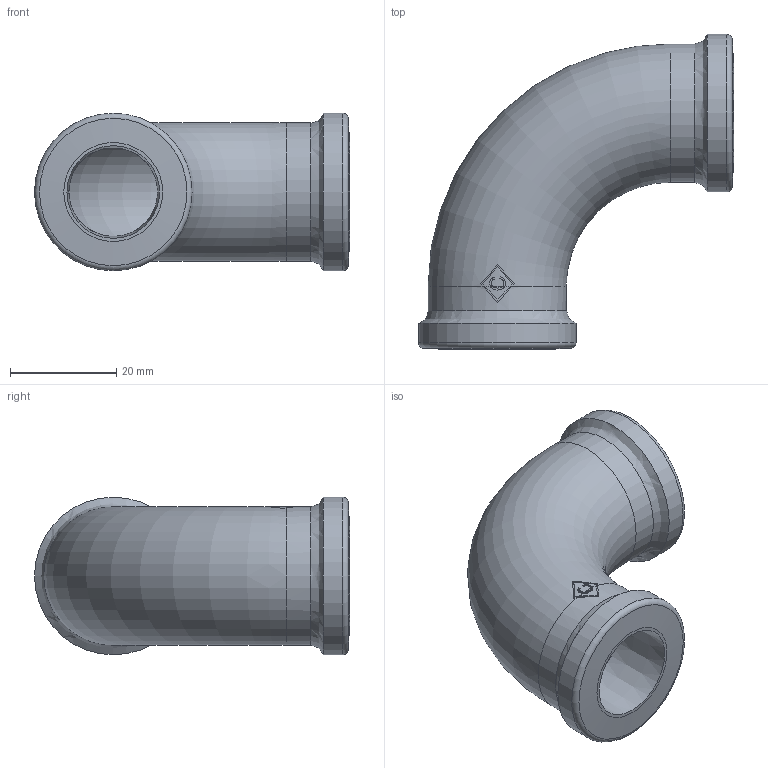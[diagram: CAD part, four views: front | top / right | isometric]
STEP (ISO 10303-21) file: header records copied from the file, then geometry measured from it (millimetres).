
FILE_DESCRIPTION((''),'2;1');
FILE_NAME('P:\Fastrack\53909_CRANE\Crane\Fig.193 Bend\New 0.50 inch\193-0.50.stp','2009-09-17T09:31:02',('btaylor'),(''),'Autodesk Inventor 2008','Autodesk Inventor 2008','');
FILE_SCHEMA(('AUTOMOTIVE_DESIGN { 1 0 10303 214 1 1 1 1 }'));
Length unit declared in the file: millimetre
Products named in the file (1): 193-0.50
Bounding box: 59.2 x 59.2 x 29.6 mm (x, y, z)
Volume: 18535.1 mm3; surface area: 11864.5 mm2
Topology: 1 solids, 1 shells, 44 faces, 121 edges, 79 vertices
Faces by surface type: bspline 12, plane 12, torus 8, cylinder 8, cone 4
Full cylindrical faces by diameter (mm): 26 x2, 29.6 x2
Entity records: 2564 total; most frequent: CARTESIAN_POINT 1581, ORIENTED_EDGE 206, DIRECTION 158, EDGE_CURVE 103, VERTEX_POINT 75, AXIS2_PLACEMENT_3D 70, EDGE_LOOP 60, B_SPLINE_CURVE_WITH_KNOTS 48
